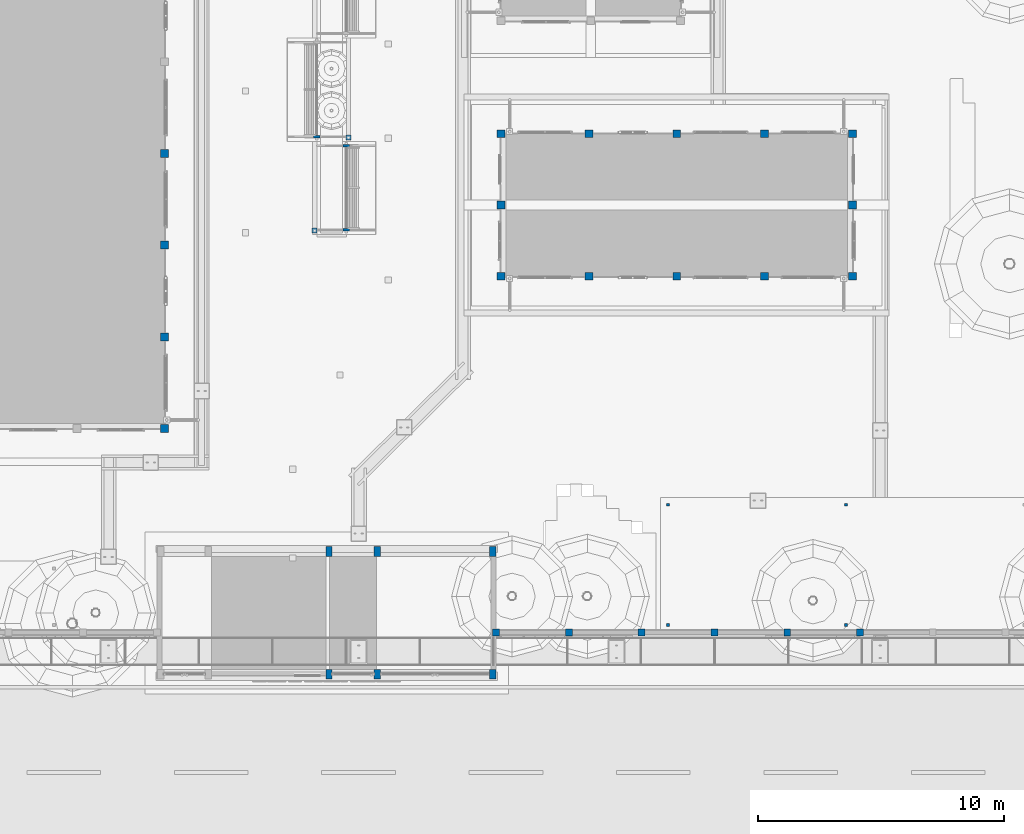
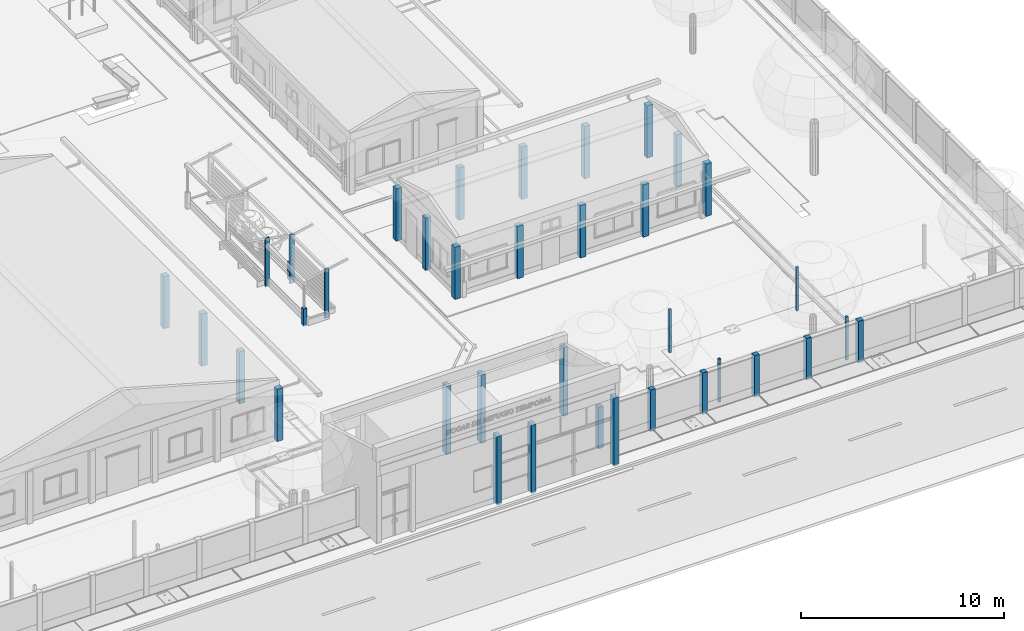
# One storey, part 2 of 177: 42 columns.
"""IFC4 building model written with IfcOpenShell, lengths in metres."""

from ifc_helpers import new_model, si_unit, frame, origin, origin_with_axes, place, context, subcontext, project, spatial, triangles, element, save


model = new_model("IFC4")

# Units and contexts
model_context = context("Model", 3, precision=1e-05, world=origin_with_axes())
body_context = subcontext(model_context, "Body", "Model", "MODEL_VIEW")
ifc_project = project(units=[si_unit("LENGTHUNIT", "METRE"), si_unit("AREAUNIT", "SQUARE_METRE"), si_unit("VOLUMEUNIT", "CUBIC_METRE"), si_unit("PLANEANGLEUNIT", "RADIAN")], contexts=[model_context])

# Site, building, storey
site_placement = place(None, origin_with_axes())
site = spatial("IfcSite", under=ifc_project, at=site_placement, Name="Predio Los Mangos - Morales, San Martín", CompositionType="ELEMENT")
building_placement = place(site_placement, origin())
building = spatial("IfcBuilding", under=site, at=building_placement, Name="Hogar de Refugio Temporal", CompositionType="ELEMENT")
storey_placement = place(building_placement, origin())
storey = spatial("IfcBuildingStorey", under=building, at=storey_placement, Name="NIVEL 1 (NPT +0.00)", CompositionType="ELEMENT", Elevation=0.0)

# Columns
for number, where, name in (
    (1, (0.0, 0.0, 0.0), "E-01_col"),
    (2, (0.0, 0.0, 0.0), "E-01_col"),
):
    element("IfcColumn", number, at=place(storey_placement, frame(where)), inside=storey, Name=name, ObjectType="Columna", PredefinedType="COLUMN", context=body_context, shape_type="Tessellation", body=[
        triangles([(31.44, 26.14, 0.15), (31.76, 26.14, 0.15), (31.76, 26.46, 0.15), (31.44, 26.46, 0.15), (31.44, 26.14, 3.3), (31.76, 26.14, 3.3), (31.76, 26.46, 3.3), (31.44, 26.46, 3.3)], [[1, 4, 3], [1, 3, 2], [5, 6, 7], [5, 7, 8], [1, 2, 6], [1, 6, 5], [2, 3, 7], [2, 7, 6], [3, 4, 8], [3, 8, 7], [4, 1, 5], [4, 5, 8]]),
    ])
column_1_placement = place(storey_placement, origin())
element("IfcColumn", 3, at=column_1_placement, inside=storey, Name="E-01_col", ObjectType="Columna", PredefinedType="COLUMN", context=body_context, shape_type="Tessellation", body=[
    triangles([(31.44, 29.8733, 0.15), (31.76, 29.8733, 0.15), (31.76, 30.1933, 0.15), (31.44, 30.1933, 0.15), (31.44, 29.8733, 3.3), (31.76, 29.8733, 3.3), (31.76, 30.1933, 3.3), (31.44, 30.1933, 3.3)], [[1, 4, 3], [1, 3, 2], [5, 6, 7], [5, 7, 8], [1, 2, 6], [1, 6, 5], [2, 3, 7], [2, 7, 6], [3, 4, 8], [3, 8, 7], [4, 1, 5], [4, 5, 8]]),
])
column_2_placement = place(storey_placement, origin())
element("IfcColumn", 4, at=column_2_placement, inside=storey, Name="E-01_col", ObjectType="Columna", PredefinedType="COLUMN", context=body_context, shape_type="Tessellation", body=[
    triangles([(31.44, 33.6067, 0.15), (31.76, 33.6067, 0.15), (31.76, 33.9267, 0.15), (31.44, 33.9267, 0.15), (31.44, 33.6067, 3.3), (31.76, 33.6067, 3.3), (31.76, 33.9267, 3.3), (31.44, 33.9267, 3.3)], [[1, 4, 3], [1, 3, 2], [5, 6, 7], [5, 7, 8], [1, 2, 6], [1, 6, 5], [2, 3, 7], [2, 7, 6], [3, 4, 8], [3, 8, 7], [4, 1, 5], [4, 5, 8]]),
])
column_3_placement = place(storey_placement, origin())
element("IfcColumn", 5, at=column_3_placement, inside=storey, Name="E-01_col", ObjectType="Columna", PredefinedType="COLUMN", context=body_context, shape_type="Tessellation", body=[
    triangles([(31.44, 37.34, 0.15), (31.76, 37.34, 0.15), (31.76, 37.66, 0.15), (31.44, 37.66, 0.15), (31.44, 37.34, 3.3), (31.76, 37.34, 3.3), (31.76, 37.66, 3.3), (31.44, 37.66, 3.3)], [[1, 4, 3], [1, 3, 2], [5, 6, 7], [5, 7, 8], [1, 2, 6], [1, 6, 5], [2, 3, 7], [2, 7, 6], [3, 4, 8], [3, 8, 7], [4, 1, 5], [4, 5, 8]]),
])
column_4_placement = place(storey_placement, origin())
element("IfcColumn", 6, at=column_4_placement, inside=storey, Name="E-03_col", ObjectType="Columna", PredefinedType="COLUMN", context=body_context, shape_type="Tessellation", body=[
    triangles([(45.14, 32.34, 0.15), (45.46, 32.34, 0.15), (45.46, 32.66, 0.15), (45.14, 32.66, 0.15), (45.14, 32.34, 3.3), (45.46, 32.34, 3.3), (45.46, 32.66, 3.3), (45.14, 32.66, 3.3)], [[1, 4, 3], [1, 3, 2], [5, 6, 7], [5, 7, 8], [1, 2, 6], [1, 6, 5], [2, 3, 7], [2, 7, 6], [3, 4, 8], [3, 8, 7], [4, 1, 5], [4, 5, 8]]),
])
column_5_placement = place(storey_placement, origin())
element("IfcColumn", 7, at=column_5_placement, inside=storey, Name="E-03_col", ObjectType="Columna", PredefinedType="COLUMN", context=body_context, shape_type="Tessellation", body=[
    triangles([(48.715, 32.34, 0.15), (49.035, 32.34, 0.15), (49.035, 32.66, 0.15), (48.715, 32.66, 0.15), (48.715, 32.34, 3.3), (49.035, 32.34, 3.3), (49.035, 32.66, 3.3), (48.715, 32.66, 3.3)], [[1, 4, 3], [1, 3, 2], [5, 6, 7], [5, 7, 8], [1, 2, 6], [1, 6, 5], [2, 3, 7], [2, 7, 6], [3, 4, 8], [3, 8, 7], [4, 1, 5], [4, 5, 8]]),
])
column_6_placement = place(storey_placement, origin())
element("IfcColumn", 8, at=column_6_placement, inside=storey, Name="E-03_col", ObjectType="Columna", PredefinedType="COLUMN", context=body_context, shape_type="Tessellation", body=[
    triangles([(52.29, 32.34, 0.15), (52.61, 32.34, 0.15), (52.61, 32.66, 0.15), (52.29, 32.66, 0.15), (52.29, 32.34, 3.3), (52.61, 32.34, 3.3), (52.61, 32.66, 3.3), (52.29, 32.66, 3.3)], [[1, 4, 3], [1, 3, 2], [5, 6, 7], [5, 7, 8], [1, 2, 6], [1, 6, 5], [2, 3, 7], [2, 7, 6], [3, 4, 8], [3, 8, 7], [4, 1, 5], [4, 5, 8]]),
])
column_7_placement = place(storey_placement, origin())
element("IfcColumn", 9, at=column_7_placement, inside=storey, Name="E-03_col", ObjectType="Columna", PredefinedType="COLUMN", context=body_context, shape_type="Tessellation", body=[
    triangles([(55.865, 32.34, 0.15), (56.185, 32.34, 0.15), (56.185, 32.66, 0.15), (55.865, 32.66, 0.15), (55.865, 32.34, 3.3), (56.185, 32.34, 3.3), (56.185, 32.66, 3.3), (55.865, 32.66, 3.3)], [[1, 4, 3], [1, 3, 2], [5, 6, 7], [5, 7, 8], [1, 2, 6], [1, 6, 5], [2, 3, 7], [2, 7, 6], [3, 4, 8], [3, 8, 7], [4, 1, 5], [4, 5, 8]]),
])
column_8_placement = place(storey_placement, origin())
element("IfcColumn", 10, at=column_8_placement, inside=storey, Name="E-03_col", ObjectType="Columna", PredefinedType="COLUMN", context=body_context, shape_type="Tessellation", body=[
    triangles([(59.44, 32.34, 0.15), (59.76, 32.34, 0.15), (59.76, 32.66, 0.15), (59.44, 32.66, 0.15), (59.44, 32.34, 3.3), (59.76, 32.34, 3.3), (59.76, 32.66, 3.3), (59.44, 32.66, 3.3)], [[1, 4, 3], [1, 3, 2], [5, 6, 7], [5, 7, 8], [1, 2, 6], [1, 6, 5], [2, 3, 7], [2, 7, 6], [3, 4, 8], [3, 8, 7], [4, 1, 5], [4, 5, 8]]),
])
column_9_placement = place(storey_placement, origin())
element("IfcColumn", 11, at=column_9_placement, inside=storey, Name="E-03_col", ObjectType="Columna", PredefinedType="COLUMN", context=body_context, shape_type="Tessellation", body=[
    triangles([(45.14, 38.14, 0.15), (45.46, 38.14, 0.15), (45.46, 38.46, 0.15), (45.14, 38.46, 0.15), (45.14, 38.14, 3.3), (45.46, 38.14, 3.3), (45.46, 38.46, 3.3), (45.14, 38.46, 3.3)], [[1, 4, 3], [1, 3, 2], [5, 6, 7], [5, 7, 8], [1, 2, 6], [1, 6, 5], [2, 3, 7], [2, 7, 6], [3, 4, 8], [3, 8, 7], [4, 1, 5], [4, 5, 8]]),
])
column_10_placement = place(storey_placement, origin())
element("IfcColumn", 12, at=column_10_placement, inside=storey, Name="E-03_col", ObjectType="Columna", PredefinedType="COLUMN", context=body_context, shape_type="Tessellation", body=[
    triangles([(48.715, 38.14, 0.15), (49.035, 38.14, 0.15), (49.035, 38.46, 0.15), (48.715, 38.46, 0.15), (48.715, 38.14, 3.3), (49.035, 38.14, 3.3), (49.035, 38.46, 3.3), (48.715, 38.46, 3.3)], [[1, 4, 3], [1, 3, 2], [5, 6, 7], [5, 7, 8], [1, 2, 6], [1, 6, 5], [2, 3, 7], [2, 7, 6], [3, 4, 8], [3, 8, 7], [4, 1, 5], [4, 5, 8]]),
])
column_11_placement = place(storey_placement, origin())
element("IfcColumn", 13, at=column_11_placement, inside=storey, Name="E-03_col", ObjectType="Columna", PredefinedType="COLUMN", context=body_context, shape_type="Tessellation", body=[
    triangles([(52.29, 38.14, 0.15), (52.61, 38.14, 0.15), (52.61, 38.46, 0.15), (52.29, 38.46, 0.15), (52.29, 38.14, 3.3), (52.61, 38.14, 3.3), (52.61, 38.46, 3.3), (52.29, 38.46, 3.3)], [[1, 4, 3], [1, 3, 2], [5, 6, 7], [5, 7, 8], [1, 2, 6], [1, 6, 5], [2, 3, 7], [2, 7, 6], [3, 4, 8], [3, 8, 7], [4, 1, 5], [4, 5, 8]]),
])
column_12_placement = place(storey_placement, origin())
element("IfcColumn", 14, at=column_12_placement, inside=storey, Name="E-03_col", ObjectType="Columna", PredefinedType="COLUMN", context=body_context, shape_type="Tessellation", body=[
    triangles([(55.865, 38.14, 0.15), (56.185, 38.14, 0.15), (56.185, 38.46, 0.15), (55.865, 38.46, 0.15), (55.865, 38.14, 3.3), (56.185, 38.14, 3.3), (56.185, 38.46, 3.3), (55.865, 38.46, 3.3)], [[1, 4, 3], [1, 3, 2], [5, 6, 7], [5, 7, 8], [1, 2, 6], [1, 6, 5], [2, 3, 7], [2, 7, 6], [3, 4, 8], [3, 8, 7], [4, 1, 5], [4, 5, 8]]),
])
column_13_placement = place(storey_placement, origin())
element("IfcColumn", 15, at=column_13_placement, inside=storey, Name="E-03_col", ObjectType="Columna", PredefinedType="COLUMN", context=body_context, shape_type="Tessellation", body=[
    triangles([(59.44, 38.14, 0.15), (59.76, 38.14, 0.15), (59.76, 38.46, 0.15), (59.44, 38.46, 0.15), (59.44, 38.14, 3.3), (59.76, 38.14, 3.3), (59.76, 38.46, 3.3), (59.44, 38.46, 3.3)], [[1, 4, 3], [1, 3, 2], [5, 6, 7], [5, 7, 8], [1, 2, 6], [1, 6, 5], [2, 3, 7], [2, 7, 6], [3, 4, 8], [3, 8, 7], [4, 1, 5], [4, 5, 8]]),
])
column_14_placement = place(storey_placement, origin())
element("IfcColumn", 16, at=column_14_placement, inside=storey, Name="E-03_col", ObjectType="Columna", PredefinedType="COLUMN", context=body_context, shape_type="Tessellation", body=[
    triangles([(45.14, 32.34, 0.15), (45.46, 32.34, 0.15), (45.46, 32.66, 0.15), (45.14, 32.66, 0.15), (45.14, 32.34, 3.3), (45.46, 32.34, 3.3), (45.46, 32.66, 3.3), (45.14, 32.66, 3.3)], [[1, 4, 3], [1, 3, 2], [5, 6, 7], [5, 7, 8], [1, 2, 6], [1, 6, 5], [2, 3, 7], [2, 7, 6], [3, 4, 8], [3, 8, 7], [4, 1, 5], [4, 5, 8]]),
])
column_15_placement = place(storey_placement, origin())
element("IfcColumn", 17, at=column_15_placement, inside=storey, Name="E-03_col", ObjectType="Columna", PredefinedType="COLUMN", context=body_context, shape_type="Tessellation", body=[
    triangles([(45.14, 35.24, 0.15), (45.46, 35.24, 0.15), (45.46, 35.56, 0.15), (45.14, 35.56, 0.15), (45.14, 35.24, 3.3), (45.46, 35.24, 3.3), (45.46, 35.56, 3.3), (45.14, 35.56, 3.3)], [[1, 4, 3], [1, 3, 2], [5, 6, 7], [5, 7, 8], [1, 2, 6], [1, 6, 5], [2, 3, 7], [2, 7, 6], [3, 4, 8], [3, 8, 7], [4, 1, 5], [4, 5, 8]]),
])
column_16_placement = place(storey_placement, origin())
element("IfcColumn", 18, at=column_16_placement, inside=storey, Name="E-03_col", ObjectType="Columna", PredefinedType="COLUMN", context=body_context, shape_type="Tessellation", body=[
    triangles([(45.14, 38.14, 0.15), (45.46, 38.14, 0.15), (45.46, 38.46, 0.15), (45.14, 38.46, 0.15), (45.14, 38.14, 3.3), (45.46, 38.14, 3.3), (45.46, 38.46, 3.3), (45.14, 38.46, 3.3)], [[1, 4, 3], [1, 3, 2], [5, 6, 7], [5, 7, 8], [1, 2, 6], [1, 6, 5], [2, 3, 7], [2, 7, 6], [3, 4, 8], [3, 8, 7], [4, 1, 5], [4, 5, 8]]),
])
column_17_placement = place(storey_placement, origin())
element("IfcColumn", 19, at=column_17_placement, inside=storey, Name="E-03_col", ObjectType="Columna", PredefinedType="COLUMN", context=body_context, shape_type="Tessellation", body=[
    triangles([(59.44, 32.34, 0.15), (59.76, 32.34, 0.15), (59.76, 32.66, 0.15), (59.44, 32.66, 0.15), (59.44, 32.34, 3.3), (59.76, 32.34, 3.3), (59.76, 32.66, 3.3), (59.44, 32.66, 3.3)], [[1, 4, 3], [1, 3, 2], [5, 6, 7], [5, 7, 8], [1, 2, 6], [1, 6, 5], [2, 3, 7], [2, 7, 6], [3, 4, 8], [3, 8, 7], [4, 1, 5], [4, 5, 8]]),
])
column_18_placement = place(storey_placement, origin())
element("IfcColumn", 20, at=column_18_placement, inside=storey, Name="E-03_col", ObjectType="Columna", PredefinedType="COLUMN", context=body_context, shape_type="Tessellation", body=[
    triangles([(59.44, 35.24, 0.15), (59.76, 35.24, 0.15), (59.76, 35.56, 0.15), (59.44, 35.56, 0.15), (59.44, 35.24, 3.3), (59.76, 35.24, 3.3), (59.76, 35.56, 3.3), (59.44, 35.56, 3.3)], [[1, 4, 3], [1, 3, 2], [5, 6, 7], [5, 7, 8], [1, 2, 6], [1, 6, 5], [2, 3, 7], [2, 7, 6], [3, 4, 8], [3, 8, 7], [4, 1, 5], [4, 5, 8]]),
])
column_19_placement = place(storey_placement, origin())
element("IfcColumn", 21, at=column_19_placement, inside=storey, Name="E-03_col", ObjectType="Columna", PredefinedType="COLUMN", context=body_context, shape_type="Tessellation", body=[
    triangles([(59.44, 38.14, 0.15), (59.76, 38.14, 0.15), (59.76, 38.46, 0.15), (59.44, 38.46, 0.15), (59.44, 38.14, 3.3), (59.76, 38.14, 3.3), (59.76, 38.46, 3.3), (59.44, 38.46, 3.3)], [[1, 4, 3], [1, 3, 2], [5, 6, 7], [5, 7, 8], [1, 2, 6], [1, 6, 5], [2, 3, 7], [2, 7, 6], [3, 4, 8], [3, 8, 7], [4, 1, 5], [4, 5, 8]]),
])
column_20_placement = place(storey_placement, origin())
element("IfcColumn", 22, at=column_20_placement, inside=storey, Name="oe01_col", ObjectType="Columna", PredefinedType="COLUMN", context=body_context, shape_type="Tessellation", body=[
    triangles([(38.1653, 16.1, 0.05), (38.4253, 16.1, 0.05), (38.4253, 16.5, 0.05), (38.1653, 16.5, 0.05), (38.1653, 16.1, 4.18), (38.4253, 16.1, 4.18), (38.4253, 16.5, 4.18), (38.1653, 16.5, 4.18)], [[1, 4, 3], [1, 3, 2], [5, 6, 7], [5, 7, 8], [1, 2, 6], [1, 6, 5], [2, 3, 7], [2, 7, 6], [3, 4, 8], [3, 8, 7], [4, 1, 5], [4, 5, 8]]),
])
column_21_placement = place(storey_placement, origin())
element("IfcColumn", 23, at=column_21_placement, inside=storey, Name="oe01_col_post", ObjectType="Columna", PredefinedType="COLUMN", context=body_context, shape_type="Tessellation", body=[
    triangles([(38.1653, 21.1, 0.05), (38.4253, 21.1, 0.05), (38.4253, 21.5, 0.05), (38.1653, 21.5, 0.05), (38.1653, 21.1, 4.18), (38.4253, 21.1, 4.18), (38.4253, 21.5, 4.18), (38.1653, 21.5, 4.18)], [[1, 4, 3], [1, 3, 2], [5, 6, 7], [5, 7, 8], [1, 2, 6], [1, 6, 5], [2, 3, 7], [2, 7, 6], [3, 4, 8], [3, 8, 7], [4, 1, 5], [4, 5, 8]]),
])
column_22_placement = place(storey_placement, origin())
element("IfcColumn", 24, at=column_22_placement, inside=storey, Name="oe01_col", ObjectType="Columna", PredefinedType="COLUMN", context=body_context, shape_type="Tessellation", body=[
    triangles([(40.1325, 16.1, 0.05), (40.3925, 16.1, 0.05), (40.3925, 16.5, 0.05), (40.1325, 16.5, 0.05), (40.1325, 16.1, 4.18), (40.3925, 16.1, 4.18), (40.3925, 16.5, 4.18), (40.1325, 16.5, 4.18)], [[1, 4, 3], [1, 3, 2], [5, 6, 7], [5, 7, 8], [1, 2, 6], [1, 6, 5], [2, 3, 7], [2, 7, 6], [3, 4, 8], [3, 8, 7], [4, 1, 5], [4, 5, 8]]),
])
column_23_placement = place(storey_placement, origin())
element("IfcColumn", 25, at=column_23_placement, inside=storey, Name="oe01_col_post", ObjectType="Columna", PredefinedType="COLUMN", context=body_context, shape_type="Tessellation", body=[
    triangles([(40.1325, 21.1, 0.05), (40.3925, 21.1, 0.05), (40.3925, 21.5, 0.05), (40.1325, 21.5, 0.05), (40.1325, 21.1, 4.18), (40.3925, 21.1, 4.18), (40.3925, 21.5, 4.18), (40.1325, 21.5, 4.18)], [[1, 4, 3], [1, 3, 2], [5, 6, 7], [5, 7, 8], [1, 2, 6], [1, 6, 5], [2, 3, 7], [2, 7, 6], [3, 4, 8], [3, 8, 7], [4, 1, 5], [4, 5, 8]]),
])
column_24_placement = place(storey_placement, origin())
element("IfcColumn", 26, at=column_24_placement, inside=storey, Name="oe01_col", ObjectType="Columna", PredefinedType="COLUMN", context=body_context, shape_type="Tessellation", body=[
    triangles([(44.8295, 16.1, 0.05), (45.0895, 16.1, 0.05), (45.0895, 16.5, 0.05), (44.8295, 16.5, 0.05), (44.8295, 16.1, 4.18), (45.0895, 16.1, 4.18), (45.0895, 16.5, 4.18), (44.8295, 16.5, 4.18)], [[1, 4, 3], [1, 3, 2], [5, 6, 7], [5, 7, 8], [1, 2, 6], [1, 6, 5], [2, 3, 7], [2, 7, 6], [3, 4, 8], [3, 8, 7], [4, 1, 5], [4, 5, 8]]),
])
column_25_placement = place(storey_placement, origin())
element("IfcColumn", 27, at=column_25_placement, inside=storey, Name="oe01_col_post", ObjectType="Columna", PredefinedType="COLUMN", context=body_context, shape_type="Tessellation", body=[
    triangles([(44.8295, 21.1, 0.05), (45.0895, 21.1, 0.05), (45.0895, 21.5, 0.05), (44.8295, 21.5, 0.05), (44.8295, 21.1, 4.18), (45.0895, 21.1, 4.18), (45.0895, 21.5, 4.18), (44.8295, 21.5, 4.18)], [[1, 4, 3], [1, 3, 2], [5, 6, 7], [5, 7, 8], [1, 2, 6], [1, 6, 5], [2, 3, 7], [2, 7, 6], [3, 4, 8], [3, 8, 7], [4, 1, 5], [4, 5, 8]]),
])
column_26_placement = place(storey_placement, origin())
element("IfcColumn", 28, at=column_26_placement, inside=storey, Name="poste_autos", ObjectType="Columna", PredefinedType="COLUMN", context=body_context, shape_type="Tessellation", body=[
    triangles([(52.04, 18.24, 0.1), (52.16, 18.24, 0.1), (52.16, 18.36, 0.1), (52.04, 18.36, 0.1), (52.04, 18.24, 2.7), (52.16, 18.24, 2.7), (52.16, 18.36, 2.7), (52.04, 18.36, 2.7)], [[1, 4, 3], [1, 3, 2], [5, 6, 7], [5, 7, 8], [1, 2, 6], [1, 6, 5], [2, 3, 7], [2, 7, 6], [3, 4, 8], [3, 8, 7], [4, 1, 5], [4, 5, 8]]),
])
column_27_placement = place(storey_placement, origin())
element("IfcColumn", 29, at=column_27_placement, inside=storey, Name="poste_autos", ObjectType="Columna", PredefinedType="COLUMN", context=body_context, shape_type="Tessellation", body=[
    triangles([(52.04, 23.14, 0.1), (52.16, 23.14, 0.1), (52.16, 23.26, 0.1), (52.04, 23.26, 0.1), (52.04, 23.14, 2.7), (52.16, 23.14, 2.7), (52.16, 23.26, 2.7), (52.04, 23.26, 2.7)], [[1, 4, 3], [1, 3, 2], [5, 6, 7], [5, 7, 8], [1, 2, 6], [1, 6, 5], [2, 3, 7], [2, 7, 6], [3, 4, 8], [3, 8, 7], [4, 1, 5], [4, 5, 8]]),
])
column_28_placement = place(storey_placement, origin())
element("IfcColumn", 30, at=column_28_placement, inside=storey, Name="poste_autos", ObjectType="Columna", PredefinedType="COLUMN", context=body_context, shape_type="Tessellation", body=[
    triangles([(59.29, 18.24, 0.1), (59.41, 18.24, 0.1), (59.41, 18.36, 0.1), (59.29, 18.36, 0.1), (59.29, 18.24, 2.7), (59.41, 18.24, 2.7), (59.41, 18.36, 2.7), (59.29, 18.36, 2.7)], [[1, 4, 3], [1, 3, 2], [5, 6, 7], [5, 7, 8], [1, 2, 6], [1, 6, 5], [2, 3, 7], [2, 7, 6], [3, 4, 8], [3, 8, 7], [4, 1, 5], [4, 5, 8]]),
])
column_29_placement = place(storey_placement, origin())
element("IfcColumn", 31, at=column_29_placement, inside=storey, Name="poste_autos", ObjectType="Columna", PredefinedType="COLUMN", context=body_context, shape_type="Tessellation", body=[
    triangles([(59.29, 23.14, 0.1), (59.41, 23.14, 0.1), (59.41, 23.26, 0.1), (59.29, 23.26, 0.1), (59.29, 23.14, 2.7), (59.41, 23.14, 2.7), (59.41, 23.26, 2.7), (59.29, 23.26, 2.7)], [[1, 4, 3], [1, 3, 2], [5, 6, 7], [5, 7, 8], [1, 2, 6], [1, 6, 5], [2, 3, 7], [2, 7, 6], [3, 4, 8], [3, 8, 7], [4, 1, 5], [4, 5, 8]]),
])
column_30_placement = place(storey_placement, origin())
element("IfcColumn", 32, at=column_30_placement, inside=storey, Name="columna_cerco", ObjectType="Columna", PredefinedType="COLUMN", context=body_context, shape_type="Tessellation", body=[
    triangles([(44.96, 17.86, 0.0), (45.24, 17.86, 0.0), (45.24, 18.14, 0.0), (44.96, 18.14, 0.0), (44.96, 17.86, 2.5), (45.24, 17.86, 2.5), (45.24, 18.14, 2.5), (44.96, 18.14, 2.5)], [[1, 4, 3], [1, 3, 2], [5, 6, 7], [5, 7, 8], [1, 2, 6], [1, 6, 5], [2, 3, 7], [2, 7, 6], [3, 4, 8], [3, 8, 7], [4, 1, 5], [4, 5, 8]]),
])
column_31_placement = place(storey_placement, origin())
element("IfcColumn", 33, at=column_31_placement, inside=storey, Name="columna_cerco", ObjectType="Columna", PredefinedType="COLUMN", context=body_context, shape_type="Tessellation", body=[
    triangles([(47.9222, 17.86, 0.0), (48.2022, 17.86, 0.0), (48.2022, 18.14, 0.0), (47.9222, 18.14, 0.0), (47.9222, 17.86, 2.5), (48.2022, 17.86, 2.5), (48.2022, 18.14, 2.5), (47.9222, 18.14, 2.5)], [[1, 4, 3], [1, 3, 2], [5, 6, 7], [5, 7, 8], [1, 2, 6], [1, 6, 5], [2, 3, 7], [2, 7, 6], [3, 4, 8], [3, 8, 7], [4, 1, 5], [4, 5, 8]]),
])
column_32_placement = place(storey_placement, origin())
element("IfcColumn", 34, at=column_32_placement, inside=storey, Name="columna_cerco", ObjectType="Columna", PredefinedType="COLUMN", context=body_context, shape_type="Tessellation", body=[
    triangles([(50.8844, 17.86, 0.0), (51.1644, 17.86, 0.0), (51.1644, 18.14, 0.0), (50.8844, 18.14, 0.0), (50.8844, 17.86, 2.5), (51.1644, 17.86, 2.5), (51.1644, 18.14, 2.5), (50.8844, 18.14, 2.5)], [[1, 4, 3], [1, 3, 2], [5, 6, 7], [5, 7, 8], [1, 2, 6], [1, 6, 5], [2, 3, 7], [2, 7, 6], [3, 4, 8], [3, 8, 7], [4, 1, 5], [4, 5, 8]]),
])
column_33_placement = place(storey_placement, origin())
element("IfcColumn", 35, at=column_33_placement, inside=storey, Name="columna_cerco", ObjectType="Columna", PredefinedType="COLUMN", context=body_context, shape_type="Tessellation", body=[
    triangles([(53.8467, 17.86, 0.0), (54.1267, 17.86, 0.0), (54.1267, 18.14, 0.0), (53.8467, 18.14, 0.0), (53.8467, 17.86, 2.5), (54.1267, 17.86, 2.5), (54.1267, 18.14, 2.5), (53.8467, 18.14, 2.5)], [[1, 4, 3], [1, 3, 2], [5, 6, 7], [5, 7, 8], [1, 2, 6], [1, 6, 5], [2, 3, 7], [2, 7, 6], [3, 4, 8], [3, 8, 7], [4, 1, 5], [4, 5, 8]]),
])
column_34_placement = place(storey_placement, origin())
element("IfcColumn", 36, at=column_34_placement, inside=storey, Name="columna_cerco", ObjectType="Columna", PredefinedType="COLUMN", context=body_context, shape_type="Tessellation", body=[
    triangles([(56.8089, 17.86, 0.0), (57.0889, 17.86, 0.0), (57.0889, 18.14, 0.0), (56.8089, 18.14, 0.0), (56.8089, 17.86, 2.5), (57.0889, 17.86, 2.5), (57.0889, 18.14, 2.5), (56.8089, 18.14, 2.5)], [[1, 4, 3], [1, 3, 2], [5, 6, 7], [5, 7, 8], [1, 2, 6], [1, 6, 5], [2, 3, 7], [2, 7, 6], [3, 4, 8], [3, 8, 7], [4, 1, 5], [4, 5, 8]]),
])
column_35_placement = place(storey_placement, origin())
element("IfcColumn", 37, at=column_35_placement, inside=storey, Name="columna_cerco", ObjectType="Columna", PredefinedType="COLUMN", context=body_context, shape_type="Tessellation", body=[
    triangles([(59.7711, 17.86, 0.0), (60.0511, 17.86, 0.0), (60.0511, 18.14, 0.0), (59.7711, 18.14, 0.0), (59.7711, 17.86, 2.5), (60.0511, 17.86, 2.5), (60.0511, 18.14, 2.5), (59.7711, 18.14, 2.5)], [[1, 4, 3], [1, 3, 2], [5, 6, 7], [5, 7, 8], [1, 2, 6], [1, 6, 5], [2, 3, 7], [2, 7, 6], [3, 4, 8], [3, 8, 7], [4, 1, 5], [4, 5, 8]]),
])
column_36_placement = place(storey_placement, origin())
element("IfcColumn", 38, at=column_36_placement, inside=storey, Name="oc01_columna", ObjectType="Columna", PredefinedType="COLUMN", context=body_context, shape_type="Tessellation", body=[
    triangles([(39.125, 34.335, 0.0), (39.125, 34.435, 0.0), (38.875, 34.435, 0.0), (38.875, 34.335, 0.0), (39.125, 34.335, 2.93), (39.125, 34.435, 2.93), (38.875, 34.435, 2.93), (38.875, 34.335, 2.93)], [[1, 4, 3], [1, 3, 2], [5, 6, 7], [5, 7, 8], [1, 2, 6], [1, 6, 5], [2, 3, 7], [2, 7, 6], [3, 4, 8], [3, 8, 7], [4, 1, 5], [4, 5, 8]]),
])
column_37_placement = place(storey_placement, origin())
element("IfcColumn", 39, at=column_37_placement, inside=storey, Name="oc01_columna", ObjectType="Columna", PredefinedType="COLUMN", context=body_context, shape_type="Tessellation", body=[
    triangles([(39.125, 37.765, 0.0), (39.125, 37.865, 0.0), (38.875, 37.865, 0.0), (38.875, 37.765, 0.0), (39.125, 37.765, 2.93), (39.125, 37.865, 2.93), (38.875, 37.865, 2.93), (38.875, 37.765, 2.93)], [[1, 4, 3], [1, 3, 2], [5, 6, 7], [5, 7, 8], [1, 2, 6], [1, 6, 5], [2, 3, 7], [2, 7, 6], [3, 4, 8], [3, 8, 7], [4, 1, 5], [4, 5, 8]]),
])
column_38_placement = place(storey_placement, origin())
element("IfcColumn", 40, at=column_38_placement, inside=storey, Name="oc01_falsa_columna", ObjectType="Falsa columna", PredefinedType="COLUMN", context=body_context, shape_type="Tessellation", body=[
    triangles([(37.81, 34.255, 0.0), (37.81, 34.455, 0.0), (37.61, 34.455, 0.0), (37.61, 34.255, 0.0), (37.81, 34.255, 1.05), (37.81, 34.455, 1.05), (37.61, 34.455, 1.05), (37.61, 34.255, 1.05)], [[1, 4, 3], [1, 3, 2], [5, 6, 7], [5, 7, 8], [1, 2, 6], [1, 6, 5], [2, 3, 7], [2, 7, 6], [3, 4, 8], [3, 8, 7], [4, 1, 5], [4, 5, 8]]),
])
column_39_placement = place(storey_placement, origin())
element("IfcColumn", 41, at=column_39_placement, inside=storey, Name="oc01_columna", ObjectType="Columna", PredefinedType="COLUMN", context=body_context, shape_type="Tessellation", body=[
    triangles([(37.925, 38.125, 0.0), (37.925, 38.225, 0.0), (37.675, 38.225, 0.0), (37.675, 38.125, 0.0), (37.925, 38.125, 2.93), (37.925, 38.225, 2.93), (37.675, 38.225, 2.93), (37.675, 38.125, 2.93)], [[1, 4, 3], [1, 3, 2], [5, 6, 7], [5, 7, 8], [1, 2, 6], [1, 6, 5], [2, 3, 7], [2, 7, 6], [3, 4, 8], [3, 8, 7], [4, 1, 5], [4, 5, 8]]),
])
column_40_placement = place(storey_placement, origin())
element("IfcColumn", 42, at=column_40_placement, inside=storey, Name="oc01_falsa_columna", ObjectType="Falsa columna", PredefinedType="COLUMN", context=body_context, shape_type="Tessellation", body=[
    triangles([(39.19, 38.045, 0.0), (39.19, 38.245, 0.0), (38.99, 38.245, 0.0), (38.99, 38.045, 0.0), (39.19, 38.045, 1.05), (39.19, 38.245, 1.05), (38.99, 38.245, 1.05), (38.99, 38.045, 1.05)], [[1, 4, 3], [1, 3, 2], [5, 6, 7], [5, 7, 8], [1, 2, 6], [1, 6, 5], [2, 3, 7], [2, 7, 6], [3, 4, 8], [3, 8, 7], [4, 1, 5], [4, 5, 8]]),
])

save(model, "model.ifc")
